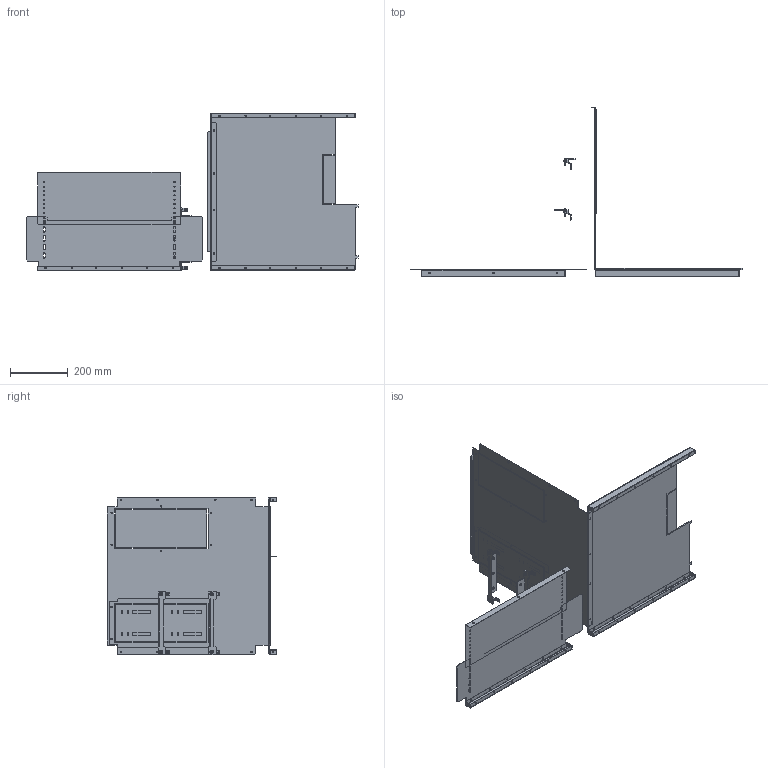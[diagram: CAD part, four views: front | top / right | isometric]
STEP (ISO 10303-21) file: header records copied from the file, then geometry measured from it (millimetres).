
FILE_DESCRIPTION(('CAx-IF Rec.Pracs.---Model Styling and Organization---1.2---2011-12-15','CAx-IF Rec.Pracs.---Geometric and Assembly Validation Properties---4.1---2014-06-16','CAx-IF Rec.Pracs.---PMI Polyline Presentation---2.0---2013-05-24'),'2;1');
FILE_NAME('R5FCMS66660 (NW08-25F).stp','2021-05-06T02:42:20+03:00',(''),(''),'STEP Interface 4.4 by CT CoreTechnologie','3D_Evolution4.4 by CT CoreTechnologie','');
FILE_SCHEMA(('AUTOMOTIVE_DESIGN { 1 0 10303 214 1 1 1 1 }'));
Length unit declared in the file: millimetre
Products named in the file (10): R5FCMS66660 (NW08-25F); RB.0780.00.00.1_-00; AC00C485; M6x16-DIN 7985 ISR_thread; RB.0779.00.00.1_-02; RB.0776.00.00.1_-00; RB.0697.00.00.1_-01; RB.0778.00.00.1_-00; RB.1168.00.00.0_-00; RB.0777.00.00.1_-02
Assembly tree (18 placements, depth 2):
  R5FCMS66660 (NW08-25F)
    RB.0780.00.00.1_-00  x2
    AC00C485  x4
    M6x16-DIN 7985 ISR_thread  x4
    RB.0779.00.00.1_-02
    RB.0776.00.00.1_-00
    RB.0697.00.00.1_-01  x3
    RB.0778.00.00.1_-00
    RB.1168.00.00.0_-00
    RB.0777.00.00.1_-02
Bounding box: 1145.9 x 585.5 x 544 mm (x, y, z)
Surface area: 1863547 mm2 (no closed solid volume)
Topology: 0 solids, 28 shells, 1052 faces, 2780 edges, 1772 vertices
Faces by surface type: plane 548, cylinder 436, bspline 68
Entity records: 21050 total; most frequent: CARTESIAN_POINT 4004, ORIENTED_EDGE 3376, DIRECTION 3375, EDGE_CURVE 1688, VECTOR 1197, LINE 1197, VERTEX_POINT 1102, AXIS2_PLACEMENT_3D 1089
